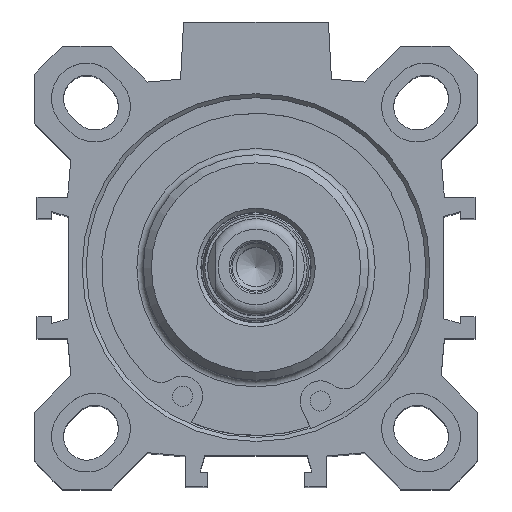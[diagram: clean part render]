
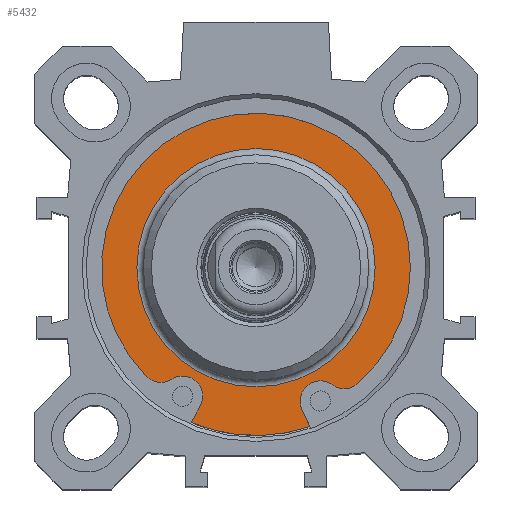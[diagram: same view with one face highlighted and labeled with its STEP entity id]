
A CAD part, top view. The second image highlights one B-rep face of the part: STEP entity #5432.
In plain terms, the highlighted planar face has unit normal (0, 0, 1).
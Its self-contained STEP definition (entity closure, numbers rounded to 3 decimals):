
#85=PLANE('',#5725);
#213=LINE('',#7296,#531);
#217=LINE('',#7308,#535);
#531=VECTOR('',#6131,1000.);
#535=VECTOR('',#6143,1000.);
#1002=ORIENTED_EDGE('',*,*,#1986,.F.);
#1003=ORIENTED_EDGE('',*,*,#1956,.T.);
#1004=ORIENTED_EDGE('',*,*,#1985,.T.);
#1005=ORIENTED_EDGE('',*,*,#1962,.T.);
#1006=ORIENTED_EDGE('',*,*,#1966,.T.);
#1007=ORIENTED_EDGE('',*,*,#1968,.T.);
#1008=ORIENTED_EDGE('',*,*,#1945,.T.);
#1009=ORIENTED_EDGE('',*,*,#1949,.T.);
#1010=ORIENTED_EDGE('',*,*,#1952,.T.);
#1945=EDGE_CURVE('',#2457,#2456,#2823,.T.);
#1949=EDGE_CURVE('',#2456,#2459,#2825,.T.);
#1952=EDGE_CURVE('',#2459,#2461,#2827,.T.);
#1956=EDGE_CURVE('',#2461,#2464,#213,.T.);
#1962=EDGE_CURVE('',#2469,#2468,#217,.T.);
#1966=EDGE_CURVE('',#2468,#2471,#2831,.T.);
#1968=EDGE_CURVE('',#2471,#2457,#2833,.T.);
#1985=EDGE_CURVE('',#2464,#2469,#2850,.T.);
#1986=EDGE_CURVE('',#2487,#2487,#2851,.T.);
#2456=VERTEX_POINT('',#7273);
#2457=VERTEX_POINT('',#7275);
#2459=VERTEX_POINT('',#7281);
#2461=VERTEX_POINT('',#7287);
#2464=VERTEX_POINT('',#7295);
#2468=VERTEX_POINT('',#7307);
#2469=VERTEX_POINT('',#7309);
#2471=VERTEX_POINT('',#7315);
#2487=VERTEX_POINT('',#7373);
#2823=CIRCLE('',#5671,19.175);
#2825=CIRCLE('',#5674,2.5);
#2827=CIRCLE('',#5677,2.5);
#2831=CIRCLE('',#5685,2.5);
#2833=CIRCLE('',#5688,2.5);
#2850=CIRCLE('',#5724,20.85);
#2851=CIRCLE('',#5726,14.8);
#3043=EDGE_LOOP('',(#1002));
#3044=EDGE_LOOP('',(#1003,#1004,#1005,#1006,#1007,#1008,#1009,#1010));
#3389=FACE_BOUND('',#3043,.T.);
#3390=FACE_BOUND('',#3044,.T.);
#5432=ADVANCED_FACE('',(#3389,#3390),#85,.T.);
#5671=AXIS2_PLACEMENT_3D('',#7274,#6109,#6110);
#5674=AXIS2_PLACEMENT_3D('',#7282,#6117,#6118);
#5677=AXIS2_PLACEMENT_3D('',#7288,#6124,#6125);
#5685=AXIS2_PLACEMENT_3D('',#7316,#6150,#6151);
#5688=AXIS2_PLACEMENT_3D('',#7319,#6156,#6157);
#5724=AXIS2_PLACEMENT_3D('',#7370,#6228,#6229);
#5725=AXIS2_PLACEMENT_3D('',#7371,#6230,#6231);
#5726=AXIS2_PLACEMENT_3D('',#7372,#6232,#6233);
#6109=DIRECTION('',(0.,0.,1.));
#6110=DIRECTION('',(-0.658,0.753,0.));
#6117=DIRECTION('',(0.,0.,1.));
#6118=DIRECTION('',(0.709,0.705,0.));
#6124=DIRECTION('',(0.,0.,-1.));
#6125=DIRECTION('',(0.88,-0.474,0.));
#6131=DIRECTION('',(-0.474,-0.88,0.));
#6143=DIRECTION('',(-0.412,0.911,0.));
#6150=DIRECTION('',(0.,0.,-1.));
#6151=DIRECTION('',(0.598,0.802,0.));
#6156=DIRECTION('',(0.,0.,1.));
#6157=DIRECTION('',(0.598,0.802,0.));
#6228=DIRECTION('',(0.,0.,1.));
#6229=DIRECTION('',(0.,1.,0.));
#6230=DIRECTION('',(0.,0.,1.));
#6231=DIRECTION('',(1.,0.,0.));
#6232=DIRECTION('',(0.,0.,1.));
#6233=DIRECTION('',(0.,1.,0.));
#7273=CARTESIAN_POINT('',(-13.596,-13.522,85.6));
#7274=CARTESIAN_POINT('',(0.,0.,85.6));
#7275=CARTESIAN_POINT('',(12.623,-14.434,85.6));
#7281=CARTESIAN_POINT('',(-10.472,-13.862,85.6));
#7282=CARTESIAN_POINT('',(-11.823,-11.759,85.6));
#7287=CARTESIAN_POINT('',(-6.92,-17.152,85.6));
#7288=CARTESIAN_POINT('',(-9.12,-15.966,85.6));
#7295=CARTESIAN_POINT('',(-8.043,-19.236,85.6));
#7296=CARTESIAN_POINT('',(-6.92,-17.152,85.6));
#7307=CARTESIAN_POINT('',(5.711,-17.591,85.6));
#7308=CARTESIAN_POINT('',(6.687,-19.749,85.6));
#7309=CARTESIAN_POINT('',(6.687,-19.749,85.6));
#7315=CARTESIAN_POINT('',(9.483,-14.556,85.6));
#7316=CARTESIAN_POINT('',(7.989,-16.561,85.6));
#7319=CARTESIAN_POINT('',(10.977,-12.552,85.6));
#7370=CARTESIAN_POINT('',(0.,0.,85.6));
#7371=CARTESIAN_POINT('',(0.,17.825,85.6));
#7372=CARTESIAN_POINT('',(0.,0.,85.6));
#7373=CARTESIAN_POINT('',(0.,14.8,85.6));
